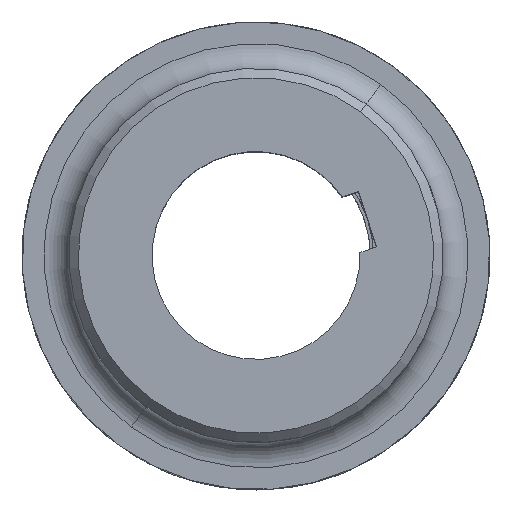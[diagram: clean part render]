
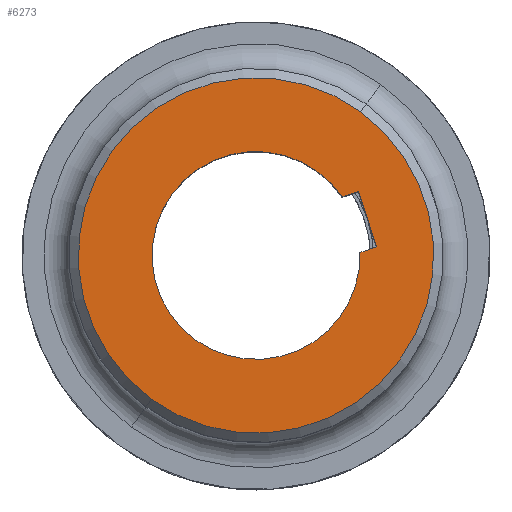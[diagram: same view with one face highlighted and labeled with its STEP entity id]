
A CAD part, top view. The second image highlights one B-rep face of the part: STEP entity #6273.
In plain terms, the highlighted planar face has unit normal (0, 0, 1) as drawn and (0, 0, -1) by its records, which use the part's own axes.
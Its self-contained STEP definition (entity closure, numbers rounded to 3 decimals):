
#155 = VERTEX_POINT ( 'NONE', #4100 ) ;
#163 = AXIS2_PLACEMENT_3D ( 'NONE', #3401, #1057, #2109 ) ;
#202 = EDGE_CURVE ( 'NONE', #3233, #2860, #2040, .T. ) ;
#267 = DIRECTION ( 'NONE',  ( -0.791, 0.612, 0. ) ) ;
#439 = CARTESIAN_POINT ( 'NONE',  ( -39.54, 30.604, -110. ) ) ;
#459 = DIRECTION ( 'NONE',  ( 0., 0., 1. ) ) ;
#496 = VECTOR ( 'NONE', #4085, 1000. ) ;
#623 = DIRECTION ( 'NONE',  ( 0.588, -0.809, 0. ) ) ;
#649 = EDGE_CURVE ( 'NONE', #3233, #2860, #5528, .T. ) ;
#946 = EDGE_CURVE ( 'NONE', #155, #2143, #3462, .T. ) ;
#1057 = DIRECTION ( 'NONE',  ( 0., 0., 1. ) ) ;
#1083 = EDGE_LOOP ( 'NONE', ( #5000, #1743, #2258, #7373, #6966, #1175 ) ) ;
#1175 = ORIENTED_EDGE ( 'NONE', *, *, #4985, .F. ) ;
#1180 = EDGE_CURVE ( 'NONE', #7226, #6976, #5669, .T. ) ;
#1229 = AXIS2_PLACEMENT_3D ( 'NONE', #4956, #459, #7307 ) ;
#1254 = CARTESIAN_POINT ( 'NONE',  ( 0., 0., -110. ) ) ;
#1266 = CARTESIAN_POINT ( 'NONE',  ( -44.477, 37.4, -110. ) ) ;
#1383 = CARTESIAN_POINT ( 'NONE',  ( 0., 0., -110. ) ) ;
#1403 = CARTESIAN_POINT ( 'NONE',  ( 0., -85.5, -110. ) ) ;
#1574 = CARTESIAN_POINT ( 'NONE',  ( 50., 0., -110. ) ) ;
#1743 = ORIENTED_EDGE ( 'NONE', *, *, #3402, .T. ) ;
#1813 = FACE_OUTER_BOUND ( 'NONE', #5855, .T. ) ;
#2040 = CIRCLE ( 'NONE', #6254, 85.5 ) ;
#2109 = DIRECTION ( 'NONE',  ( -0.791, 0.612, 0. ) ) ;
#2143 = VERTEX_POINT ( 'NONE', #3705 ) ;
#2194 = VECTOR ( 'NONE', #623, 1000. ) ;
#2258 = ORIENTED_EDGE ( 'NONE', *, *, #1180, .T. ) ;
#2354 = CARTESIAN_POINT ( 'NONE',  ( -21.825, 53.858, -110. ) ) ;
#2703 = CARTESIAN_POINT ( 'NONE',  ( 0., 0., -110. ) ) ;
#2738 = VERTEX_POINT ( 'NONE', #439 ) ;
#2860 = VERTEX_POINT ( 'NONE', #1403 ) ;
#2964 = DIRECTION ( 'NONE',  ( 0., -1., 0. ) ) ;
#2985 = ORIENTED_EDGE ( 'NONE', *, *, #202, .F. ) ;
#3078 = DIRECTION ( 'NONE',  ( 0., 0., -1. ) ) ;
#3110 = FACE_BOUND ( 'NONE', #1083, .T. ) ;
#3233 = VERTEX_POINT ( 'NONE', #4262 ) ;
#3295 = AXIS2_PLACEMENT_3D ( 'NONE', #1383, #5410, #267 ) ;
#3323 = DIRECTION ( 'NONE',  ( 0., 1., 0. ) ) ;
#3401 = CARTESIAN_POINT ( 'NONE',  ( 0., 0., -110. ) ) ;
#3402 = EDGE_CURVE ( 'NONE', #5369, #7226, #4729, .T. ) ;
#3462 = LINE ( 'NONE', #1266, #496 ) ;
#3482 = CARTESIAN_POINT ( 'NONE',  ( -50., 0., -110. ) ) ;
#3615 = DIRECTION ( 'NONE',  ( 0., 1., 0. ) ) ;
#3705 = CARTESIAN_POINT ( 'NONE',  ( -21.825, 53.858, -110. ) ) ;
#3952 = DIRECTION ( 'NONE',  ( 0., 0., -1. ) ) ;
#4085 = DIRECTION ( 'NONE',  ( 0.809, 0.588, 0. ) ) ;
#4100 = CARTESIAN_POINT ( 'NONE',  ( -44.477, 37.4, -110. ) ) ;
#4226 = CARTESIAN_POINT ( 'NONE',  ( -39.54, 30.604, -110. ) ) ;
#4262 = CARTESIAN_POINT ( 'NONE',  ( 0., 85.5, -110. ) ) ;
#4478 = ORIENTED_EDGE ( 'NONE', *, *, #649, .T. ) ;
#4487 = AXIS2_PLACEMENT_3D ( 'NONE', #1254, #3078, #2964 ) ;
#4553 = EDGE_CURVE ( 'NONE', #2738, #5369, #4611, .T. ) ;
#4611 = CIRCLE ( 'NONE', #3295, 50. ) ;
#4651 = DIRECTION ( 'NONE',  ( -0.588, 0.809, 0. ) ) ;
#4729 = CIRCLE ( 'NONE', #163, 50. ) ;
#4846 = VECTOR ( 'NONE', #4651, 1000. ) ;
#4956 = CARTESIAN_POINT ( 'NONE',  ( 0., 0., -110. ) ) ;
#4985 = EDGE_CURVE ( 'NONE', #2738, #155, #6967, .T. ) ;
#5000 = ORIENTED_EDGE ( 'NONE', *, *, #4553, .T. ) ;
#5369 = VERTEX_POINT ( 'NONE', #3482 ) ;
#5410 = DIRECTION ( 'NONE',  ( 0., 0., 1. ) ) ;
#5528 = CIRCLE ( 'NONE', #7135, 85.5 ) ;
#5669 = CIRCLE ( 'NONE', #1229, 50. ) ;
#5855 = EDGE_LOOP ( 'NONE', ( #4478, #2985 ) ) ;
#5912 = EDGE_CURVE ( 'NONE', #2143, #6976, #6806, .T. ) ;
#5976 = CARTESIAN_POINT ( 'NONE',  ( -16.887, 47.062, -110. ) ) ;
#6176 = CARTESIAN_POINT ( 'NONE',  ( 0., 0., -110. ) ) ;
#6254 = AXIS2_PLACEMENT_3D ( 'NONE', #2703, #6558, #3615 ) ;
#6273 = ADVANCED_FACE ( 'NONE', ( #3110, #1813 ), #6995, .T. ) ;
#6558 = DIRECTION ( 'NONE',  ( 0., 0., 1. ) ) ;
#6806 = LINE ( 'NONE', #2354, #2194 ) ;
#6966 = ORIENTED_EDGE ( 'NONE', *, *, #946, .F. ) ;
#6967 = LINE ( 'NONE', #4226, #4846 ) ;
#6976 = VERTEX_POINT ( 'NONE', #5976 ) ;
#6995 = PLANE ( 'NONE',  #4487 ) ;
#7135 = AXIS2_PLACEMENT_3D ( 'NONE', #6176, #3952, #3323 ) ;
#7226 = VERTEX_POINT ( 'NONE', #1574 ) ;
#7307 = DIRECTION ( 'NONE',  ( -0.791, 0.612, 0. ) ) ;
#7373 = ORIENTED_EDGE ( 'NONE', *, *, #5912, .F. ) ;
